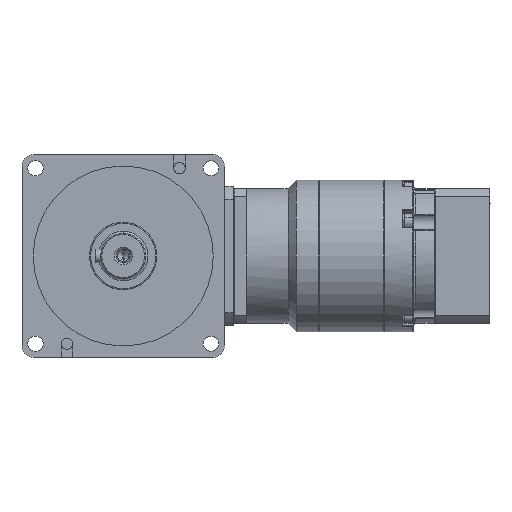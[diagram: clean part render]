
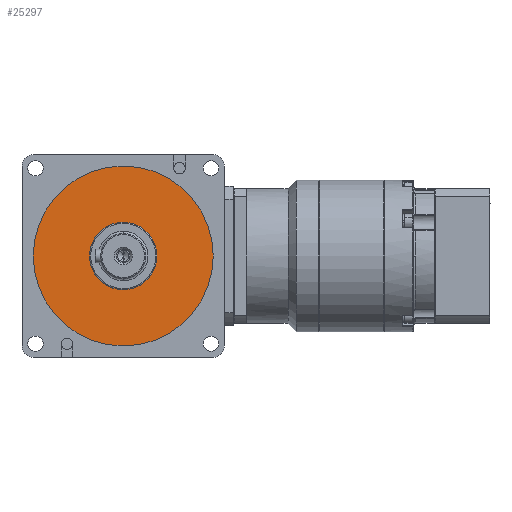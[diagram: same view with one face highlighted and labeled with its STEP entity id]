
A CAD part, left-side view. The second image highlights one B-rep face of the part: STEP entity #25297.
In plain terms, the highlighted planar face has unit normal (-1, 0, 0).
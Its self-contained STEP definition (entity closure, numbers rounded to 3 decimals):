
#1329 = CARTESIAN_POINT ( 'NONE',  ( -31., 0., 0. ) ) ;
#1837 = ORIENTED_EDGE ( 'NONE', *, *, #35995, .T. ) ;
#1883 = CIRCLE ( 'NONE', #25181, 15. ) ;
#3023 = CARTESIAN_POINT ( 'NONE',  ( -31., 0., 0. ) ) ;
#4950 = CARTESIAN_POINT ( 'NONE',  ( -31., 0., -15. ) ) ;
#5065 = ORIENTED_EDGE ( 'NONE', *, *, #41155, .F. ) ;
#5186 = DIRECTION ( 'NONE',  ( -1., 0., 0. ) ) ;
#7100 = CARTESIAN_POINT ( 'NONE',  ( -31., 0., 0. ) ) ;
#7745 = AXIS2_PLACEMENT_3D ( 'NONE', #7100, #27003, #19925 ) ;
#8719 = CARTESIAN_POINT ( 'NONE',  ( -31., 0., 40. ) ) ;
#9029 = VERTEX_POINT ( 'NONE', #43055 ) ;
#9040 = FACE_OUTER_BOUND ( 'NONE', #17350, .T. ) ;
#9217 = ORIENTED_EDGE ( 'NONE', *, *, #26273, .T. ) ;
#10087 = AXIS2_PLACEMENT_3D ( 'NONE', #3023, #16452, #27154 ) ;
#11825 = DIRECTION ( 'NONE',  ( 0., 0., 1. ) ) ;
#12259 = DIRECTION ( 'NONE',  ( 0., 0., 1. ) ) ;
#12882 = AXIS2_PLACEMENT_3D ( 'NONE', #1329, #5186, #12259 ) ;
#16452 = DIRECTION ( 'NONE',  ( -1., 0., 0. ) ) ;
#17002 = VERTEX_POINT ( 'NONE', #36826 ) ;
#17155 = EDGE_LOOP ( 'NONE', ( #5065, #38398 ) ) ;
#17350 = EDGE_LOOP ( 'NONE', ( #1837, #9217 ) ) ;
#18652 = FACE_BOUND ( 'NONE', #17155, .T. ) ;
#19309 = PLANE ( 'NONE',  #12882 ) ;
#19389 = CIRCLE ( 'NONE', #7745, 15. ) ;
#19766 = AXIS2_PLACEMENT_3D ( 'NONE', #27925, #38445, #41838 ) ;
#19925 = DIRECTION ( 'NONE',  ( 0., 0., 1. ) ) ;
#22296 = DIRECTION ( 'NONE',  ( -1., 0., 0. ) ) ;
#22887 = VERTEX_POINT ( 'NONE', #4950 ) ;
#23414 = CIRCLE ( 'NONE', #19766, 40. ) ;
#25181 = AXIS2_PLACEMENT_3D ( 'NONE', #43036, #22296, #11825 ) ;
#25297 = ADVANCED_FACE ( 'NONE', ( #18652, #9040 ), #19309, .T. ) ;
#26273 = EDGE_CURVE ( 'NONE', #17002, #39760, #42860, .T. ) ;
#27003 = DIRECTION ( 'NONE',  ( -1., 0., 0. ) ) ;
#27154 = DIRECTION ( 'NONE',  ( 0., 0., 1. ) ) ;
#27925 = CARTESIAN_POINT ( 'NONE',  ( -31., 0., 0. ) ) ;
#31086 = EDGE_CURVE ( 'NONE', #22887, #9029, #1883, .T. ) ;
#35995 = EDGE_CURVE ( 'NONE', #39760, #17002, #23414, .T. ) ;
#36826 = CARTESIAN_POINT ( 'NONE',  ( -31., 0., -40. ) ) ;
#38398 = ORIENTED_EDGE ( 'NONE', *, *, #31086, .F. ) ;
#38445 = DIRECTION ( 'NONE',  ( -1., 0., 0. ) ) ;
#39760 = VERTEX_POINT ( 'NONE', #8719 ) ;
#41155 = EDGE_CURVE ( 'NONE', #9029, #22887, #19389, .T. ) ;
#41838 = DIRECTION ( 'NONE',  ( 0., 0., 1. ) ) ;
#42860 = CIRCLE ( 'NONE', #10087, 40. ) ;
#43036 = CARTESIAN_POINT ( 'NONE',  ( -31., 0., 0. ) ) ;
#43055 = CARTESIAN_POINT ( 'NONE',  ( -31., 0., 15. ) ) ;
